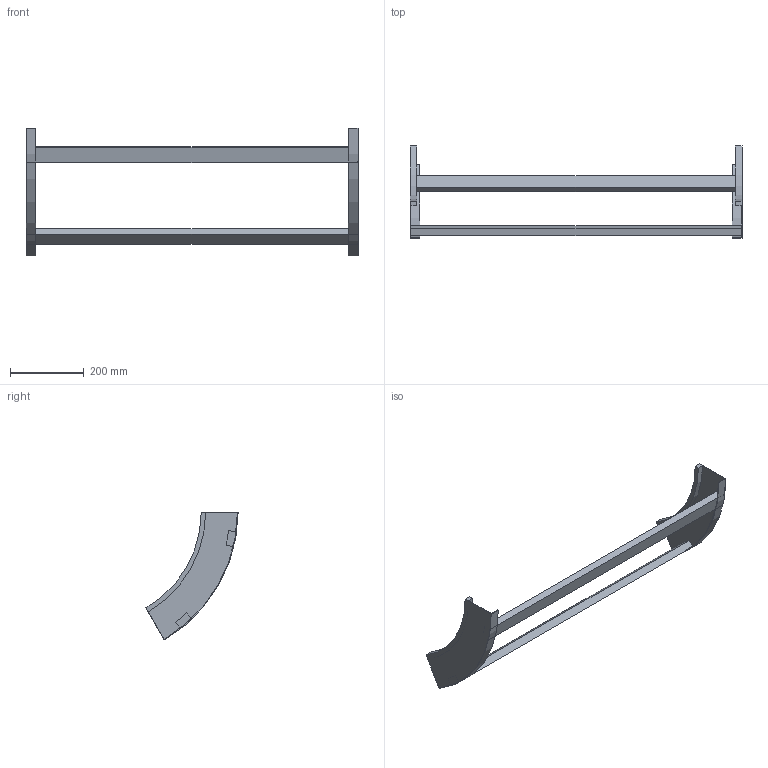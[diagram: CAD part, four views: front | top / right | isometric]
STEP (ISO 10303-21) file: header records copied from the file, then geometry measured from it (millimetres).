
FILE_DESCRIPTION (( 'STEP AP214' ), '1' );
FILE_NAME ('B2X40B3D900XX.step', '2025-03-20T10:13:14', ( '' ), ( '' ), 'SwSTEP 2.0', 'SolidWorks 2023', '' );
FILE_SCHEMA (( 'AUTOMOTIVE_DESIGN' ));
Length unit declared in the file: millimetre
Products named in the file (3): B2X40B3D900XX; TRAVERSINO_900; B2_LONGH.SALITA_60°_H100_R300
Assembly tree (4 placements, depth 2):
  B2X40B3D900XX
    B2_LONGH.SALITA_60°_H100_R300  x2
    TRAVERSINO_900  x2
Bounding box: 900 x 250 x 346.41 mm (x, y, z)
Volume: 1762960.7 mm3; surface area: 433671.3 mm2
Topology: 4 solids, 4 shells, 32 faces, 72 edges, 48 vertices
Faces by surface type: plane 24, cylinder 8
Entity records: 552 total; most frequent: DIRECTION 90, CARTESIAN_POINT 83, ORIENTED_EDGE 72, EDGE_CURVE 36, AXIS2_PLACEMENT_3D 31, VECTOR 28, LINE 28, VERTEX_POINT 24
